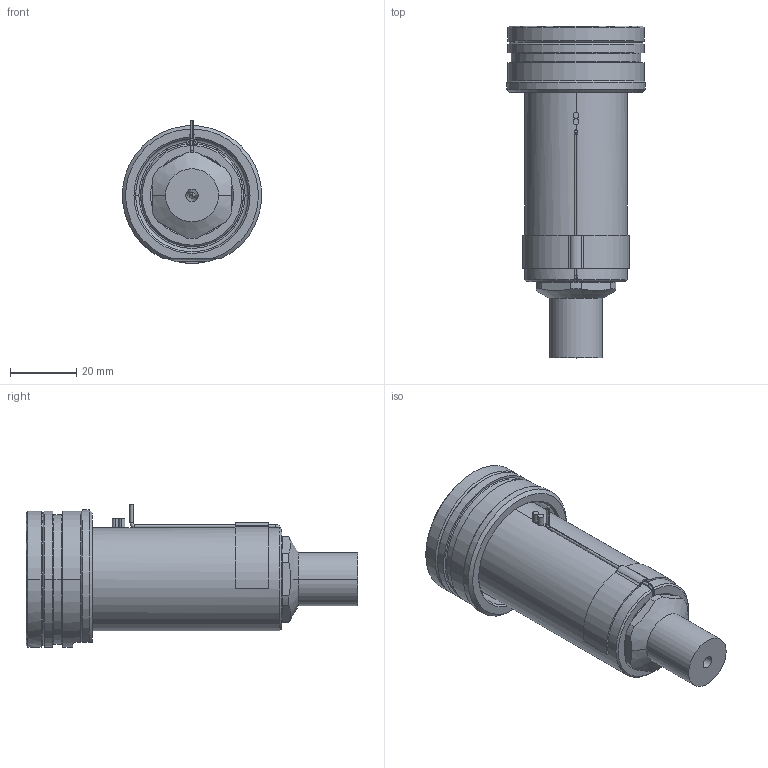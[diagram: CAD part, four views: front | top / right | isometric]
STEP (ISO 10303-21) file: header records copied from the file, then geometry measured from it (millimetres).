
FILE_DESCRIPTION((''),'2;1');
FILE_NAME('EO12_PG-FBE_STD_070_SW','2024-02-19T12:01:42',('sundharh'),(''),'CREO PARAMETRIC BY PTC INC, 2023154','CREO PARAMETRIC BY PTC INC, 2023154','');
FILE_SCHEMA(('CONFIG_CONTROL_DESIGN'));
Length unit declared in the file: millimetre
Products named in the file (1): EO12_PG-FBE_STD_070_SW
Bounding box: 41.85 x 100 x 43 mm (x, y, z)
Volume: 64159.9 mm3; surface area: 20828.8 mm2
Topology: 2 solids, 3 shells, 220 faces, 587 edges, 361 vertices
Faces by surface type: cylinder 82, plane 60, cone 45, torus 27, sphere 3, bspline 3
Entity records: 7900 total; most frequent: CARTESIAN_POINT 2287, DIRECTION 1237, ORIENTED_EDGE 1166, EDGE_CURVE 583, AXIS2_PLACEMENT_3D 520, VERTEX_POINT 361, CIRCLE 303, EDGE_LOOP 238
